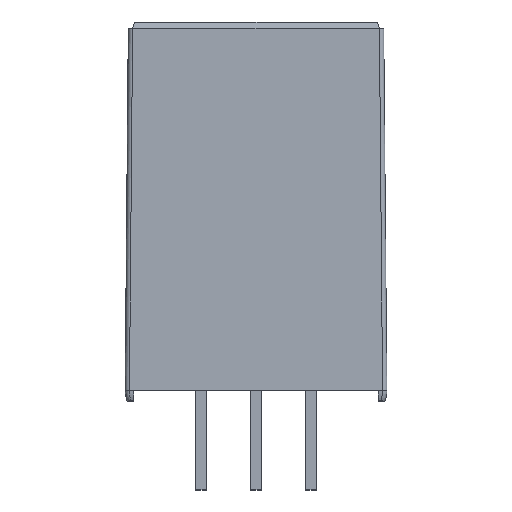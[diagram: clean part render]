
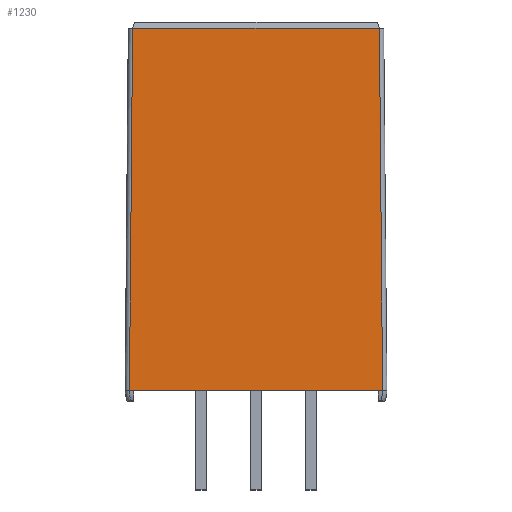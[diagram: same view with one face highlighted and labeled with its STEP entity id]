
A CAD part, top view. The second image highlights one B-rep face of the part: STEP entity #1230.
In plain terms, the highlighted planar face has unit normal (0, 0.009, 1).
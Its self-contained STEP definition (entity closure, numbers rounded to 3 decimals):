
#63 = VERTEX_POINT ( 'NONE', #1656 ) ;
#68 = CARTESIAN_POINT ( 'NONE',  ( 5.694, 0.101, 4.149 ) ) ;
#76 = CARTESIAN_POINT ( 'NONE',  ( -10., -17., 4.298 ) ) ;
#105 = EDGE_CURVE ( 'NONE', #1581, #63, #535, .T. ) ;
#168 = ORIENTED_EDGE ( 'NONE', *, *, #105, .F. ) ;
#190 = PLANE ( 'NONE',  #1078 ) ;
#198 = EDGE_CURVE ( 'NONE', #332, #297, #1293, .T. ) ;
#221 = VECTOR ( 'NONE', #1185, 1000. ) ;
#273 = CARTESIAN_POINT ( 'NONE',  ( -5.895, -0.3, 4.153 ) ) ;
#287 = EDGE_CURVE ( 'NONE', #518, #1008, #1344, .T. ) ;
#297 = VERTEX_POINT ( 'NONE', #1095 ) ;
#326 = DIRECTION ( 'NONE',  ( 0., -1., 0.009 ) ) ;
#332 = VERTEX_POINT ( 'NONE', #1493 ) ;
#335 = VECTOR ( 'NONE', #551, 1000. ) ;
#336 = VECTOR ( 'NONE', #1518, 1000. ) ;
#393 = ORIENTED_EDGE ( 'NONE', *, *, #287, .T. ) ;
#499 = VECTOR ( 'NONE', #967, 1000. ) ;
#518 = VERTEX_POINT ( 'NONE', #1415 ) ;
#529 = CARTESIAN_POINT ( 'NONE',  ( -5.895, -17., 4.298 ) ) ;
#535 = LINE ( 'NONE', #273, #221 ) ;
#551 = DIRECTION ( 'NONE',  ( 1., 0., 0. ) ) ;
#578 = EDGE_CURVE ( 'NONE', #518, #297, #1554, .T. ) ;
#641 = VECTOR ( 'NONE', #1296, 1000. ) ;
#681 = CARTESIAN_POINT ( 'NONE',  ( -10., -17., 4.298 ) ) ;
#702 = EDGE_CURVE ( 'NONE', #1008, #63, #1332, .T. ) ;
#705 = DIRECTION ( 'NONE',  ( 0., 0.009, 1. ) ) ;
#811 = FACE_OUTER_BOUND ( 'NONE', #1325, .T. ) ;
#889 = LINE ( 'NONE', #1392, #336 ) ;
#928 = CARTESIAN_POINT ( 'NONE',  ( 5.843, -17., 4.298 ) ) ;
#945 = CARTESIAN_POINT ( 'NONE',  ( -5.895, 0., 4.15 ) ) ;
#967 = DIRECTION ( 'NONE',  ( 1., 0., 0. ) ) ;
#991 = VECTOR ( 'NONE', #1365, 1000. ) ;
#1008 = VERTEX_POINT ( 'NONE', #928 ) ;
#1065 = ORIENTED_EDGE ( 'NONE', *, *, #1602, .T. ) ;
#1078 = AXIS2_PLACEMENT_3D ( 'NONE', #945, #705, #326 ) ;
#1095 = CARTESIAN_POINT ( 'NONE',  ( -5.64, -17., 4.298 ) ) ;
#1185 = DIRECTION ( 'NONE',  ( 1., 0., 0. ) ) ;
#1230 = ADVANCED_FACE ( 'NONE', ( #811 ), #190, .T. ) ;
#1237 = ORIENTED_EDGE ( 'NONE', *, *, #198, .T. ) ;
#1293 = LINE ( 'NONE', #681, #335 ) ;
#1296 = DIRECTION ( 'NONE',  ( -1., 0., 0. ) ) ;
#1325 = EDGE_LOOP ( 'NONE', ( #168, #1065, #1237, #1464, #393, #1425 ) ) ;
#1332 = LINE ( 'NONE', #68, #991 ) ;
#1344 = LINE ( 'NONE', #76, #499 ) ;
#1365 = DIRECTION ( 'NONE',  ( -0.009, 1., -0.009 ) ) ;
#1392 = CARTESIAN_POINT ( 'NONE',  ( -5.695, -0.002, 4.15 ) ) ;
#1400 = CARTESIAN_POINT ( 'NONE',  ( -5.698, -0.3, 4.153 ) ) ;
#1415 = CARTESIAN_POINT ( 'NONE',  ( 5.64, -17., 4.298 ) ) ;
#1425 = ORIENTED_EDGE ( 'NONE', *, *, #702, .T. ) ;
#1464 = ORIENTED_EDGE ( 'NONE', *, *, #578, .F. ) ;
#1493 = CARTESIAN_POINT ( 'NONE',  ( -5.843, -17., 4.298 ) ) ;
#1518 = DIRECTION ( 'NONE',  ( -0.009, -1., 0.009 ) ) ;
#1554 = LINE ( 'NONE', #529, #641 ) ;
#1581 = VERTEX_POINT ( 'NONE', #1400 ) ;
#1602 = EDGE_CURVE ( 'NONE', #1581, #332, #889, .T. ) ;
#1656 = CARTESIAN_POINT ( 'NONE',  ( 5.698, -0.3, 4.153 ) ) ;
